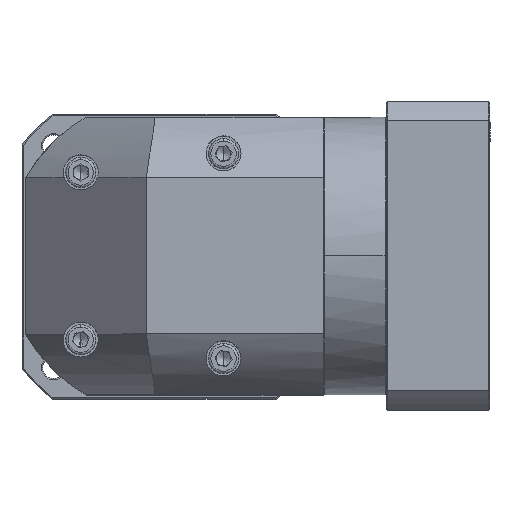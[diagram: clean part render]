
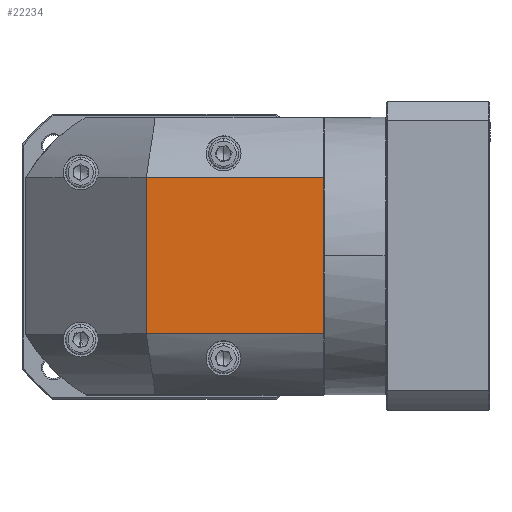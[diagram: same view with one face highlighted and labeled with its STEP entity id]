
A CAD part, top view. The second image highlights one B-rep face of the part: STEP entity #22234.
In plain terms, the highlighted planar face has unit normal (0, 0, 1).
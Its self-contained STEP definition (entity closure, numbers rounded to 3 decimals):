
#1776 = ORIENTED_EDGE ( 'NONE', *, *, #16357, .F. ) ;
#1935 = ORIENTED_EDGE ( 'NONE', *, *, #18366, .F. ) ;
#5637 = FACE_OUTER_BOUND ( 'NONE', #46557, .T. ) ;
#13254 = DIRECTION ( 'NONE',  ( 0., -1., 0. ) ) ;
#16357 = EDGE_CURVE ( 'NONE', #71143, #38542, #67691, .T. ) ;
#18039 = CARTESIAN_POINT ( 'NONE',  ( -6.947, 116.921, 85.747 ) ) ;
#18366 = EDGE_CURVE ( 'NONE', #38542, #39069, #30883, .T. ) ;
#19003 = VECTOR ( 'NONE', #40182, 1000. ) ;
#19636 = DIRECTION ( 'NONE',  ( 0., 0., -1. ) ) ;
#22234 = ADVANCED_FACE ( 'NONE', ( #5637 ), #82712, .F. ) ;
#23032 = AXIS2_PLACEMENT_3D ( 'NONE', #60934, #19636, #40429 ) ;
#25949 = CARTESIAN_POINT ( 'NONE',  ( 43.053, 116.921, 85.747 ) ) ;
#26050 = VERTEX_POINT ( 'NONE', #114691 ) ;
#27548 = DIRECTION ( 'NONE',  ( 0., 1., 0. ) ) ;
#30883 = LINE ( 'NONE', #33181, #129869 ) ;
#33181 = CARTESIAN_POINT ( 'NONE',  ( 116.453, 142.021, 85.747 ) ) ;
#38542 = VERTEX_POINT ( 'NONE', #56010 ) ;
#39069 = VERTEX_POINT ( 'NONE', #61468 ) ;
#40182 = DIRECTION ( 'NONE',  ( 1., 0., 0. ) ) ;
#40429 = DIRECTION ( 'NONE',  ( 0., -1., 0. ) ) ;
#46557 = EDGE_LOOP ( 'NONE', ( #1776, #90713, #124457, #1935 ) ) ;
#48977 = LINE ( 'NONE', #120188, #123733 ) ;
#56010 = CARTESIAN_POINT ( 'NONE',  ( 116.453, 116.921, 85.747 ) ) ;
#60934 = CARTESIAN_POINT ( 'NONE',  ( 50.553, 84.521, 85.747 ) ) ;
#61468 = CARTESIAN_POINT ( 'NONE',  ( 116.453, 52.121, 85.747 ) ) ;
#67691 = LINE ( 'NONE', #18039, #19003 ) ;
#71143 = VERTEX_POINT ( 'NONE', #25949 ) ;
#74117 = VECTOR ( 'NONE', #27548, 1000. ) ;
#77348 = LINE ( 'NONE', #110089, #74117 ) ;
#82712 = PLANE ( 'NONE',  #23032 ) ;
#90713 = ORIENTED_EDGE ( 'NONE', *, *, #129796, .F. ) ;
#110089 = CARTESIAN_POINT ( 'NONE',  ( 43.053, 142.021, 85.747 ) ) ;
#113833 = DIRECTION ( 'NONE',  ( -1., 0., 0. ) ) ;
#114542 = EDGE_CURVE ( 'NONE', #39069, #26050, #48977, .T. ) ;
#114691 = CARTESIAN_POINT ( 'NONE',  ( 43.053, 52.121, 85.747 ) ) ;
#120188 = CARTESIAN_POINT ( 'NONE',  ( -6.947, 52.121, 85.747 ) ) ;
#123733 = VECTOR ( 'NONE', #113833, 1000. ) ;
#124457 = ORIENTED_EDGE ( 'NONE', *, *, #114542, .F. ) ;
#129796 = EDGE_CURVE ( 'NONE', #26050, #71143, #77348, .T. ) ;
#129869 = VECTOR ( 'NONE', #13254, 1000. ) ;
